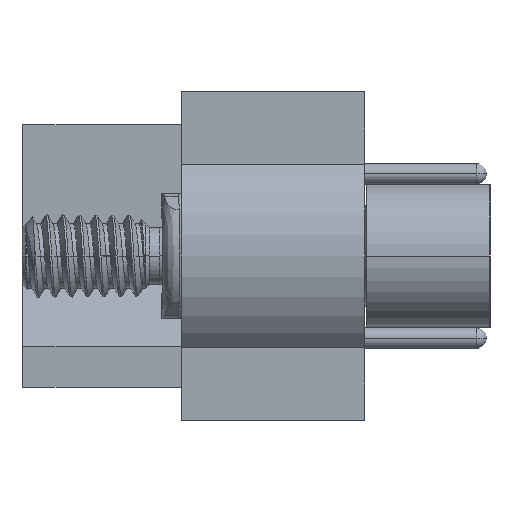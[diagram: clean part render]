
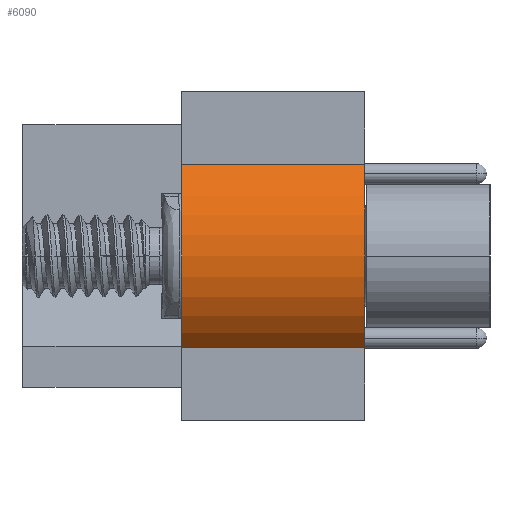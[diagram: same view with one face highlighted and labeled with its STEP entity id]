
A CAD part, left-side view. The second image highlights one B-rep face of the part: STEP entity #6090.
In plain terms, the highlighted cylindrical face has radius 3 mm (diameter 6 mm), a partial arc.
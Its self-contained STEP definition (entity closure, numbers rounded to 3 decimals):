
#46=CARTESIAN_POINT('',(-12.5,0.,0.));
#47=DIRECTION('',(0.,-1.,0.));
#48=DIRECTION('',(-0.667,0.,0.745));
#49=AXIS2_PLACEMENT_3D('',#46,#47,#48);
#324=CARTESIAN_POINT('',(-12.5,-4.46,0.));
#325=DIRECTION('',(0.,-1.,0.));
#326=DIRECTION('',(-0.667,0.,0.745));
#327=AXIS2_PLACEMENT_3D('',#324,#325,#326);
#673=DIRECTION('',(0.,-1.,0.));
#674=VECTOR('',#673,4.46);
#675=CARTESIAN_POINT('',(-14.5,0.,-2.236));
#676=LINE('',#675,#674);
#680=DIRECTION('',(0.,-1.,0.));
#681=VECTOR('',#680,4.46);
#682=CARTESIAN_POINT('',(-14.5,0.,2.236));
#683=LINE('',#682,#681);
#4766=CARTESIAN_POINT('',(-14.5,0.,2.236));
#4767=VERTEX_POINT('',#4766);
#4768=CARTESIAN_POINT('',(-14.5,0.,-2.236));
#4769=VERTEX_POINT('',#4768);
#4781=CARTESIAN_POINT('',(-14.5,-4.46,2.236));
#4783=VERTEX_POINT('',#4781);
#4784=CARTESIAN_POINT('',(-14.5,-4.46,-2.236));
#4785=VERTEX_POINT('',#4784);
#6078=CARTESIAN_POINT('',(-12.5,0.,0.));
#6079=DIRECTION('',(0.,-1.,0.));
#6080=DIRECTION('',(-1.,0.,0.));
#6081=AXIS2_PLACEMENT_3D('',#6078,#6079,#6080);
#6082=CYLINDRICAL_SURFACE('',#6081,3.);
#6083=ORIENTED_EDGE('',*,*,#5611,.F.);
#6085=ORIENTED_EDGE('',*,*,#6084,.T.);
#6086=ORIENTED_EDGE('',*,*,#5719,.T.);
#6087=ORIENTED_EDGE('',*,*,#6071,.F.);
#6088=EDGE_LOOP('',(#6083,#6085,#6086,#6087));
#6089=FACE_OUTER_BOUND('',#6088,.F.);
#50=CIRCLE('',#49,3.);
#328=CIRCLE('',#327,3.);
#5611=EDGE_CURVE('',#4767,#4769,#50,.T.);
#5719=EDGE_CURVE('',#4783,#4785,#328,.T.);
#6071=EDGE_CURVE('',#4769,#4785,#676,.T.);
#6084=EDGE_CURVE('',#4767,#4783,#683,.T.);
#6090=ADVANCED_FACE('',(#6089),#6082,.T.);
